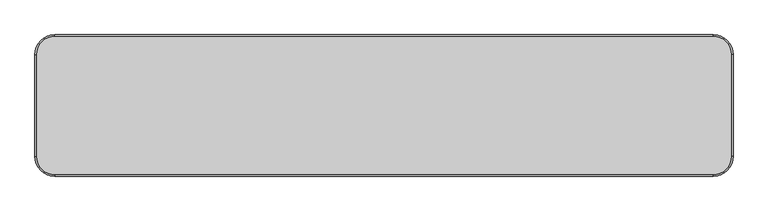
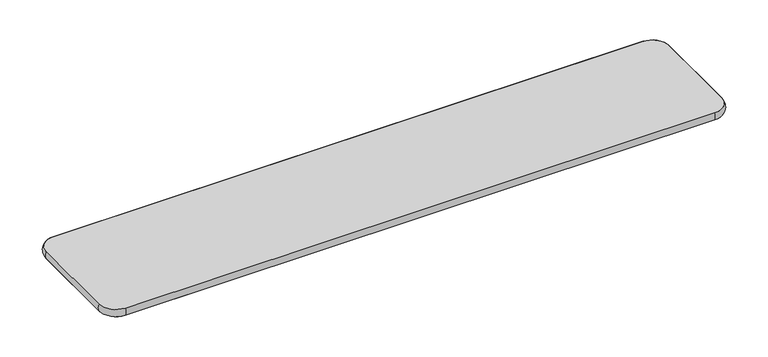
"""IFC4 building model written with IfcOpenShell, lengths in millimetres: furniture geometry, Banco para refeitório : Banco para refeitório 150x30cm cód 40470.6."""

from ifc_helpers import new_model, si_unit, point, frame, frame_2d, origin, place, context, project, spatial, polyline, circle_curve, ellipse_curve, trimmed, segment, composite_curve, outline, extrude, source, transform, mapped, element, save
from ifc_brep_helpers import plane_surface, cylinder_surface, revolved_surface, advanced_brep


def furniture_715b6826(model_context):
    return source(origin(), model_context, "Body", "SolidModel", [
        advanced_brep(
        [(750.0, -110.0, 460.0), (710.0, -150.0, 460.0), (710.0, -150.0, 442.0), (750.0, -110.0, 442.0), (750.0, 110.0, 442.0), (750.0, 110.0, 460.0), (710.0, 150.0, 460.0), (710.0, 150.0, 442.0), (-710.0, 150.0, 442.0), (-710.0, 150.0, 460.0), (-750.0, 110.0, 460.0), (-750.0, 110.0, 442.0), (-750.0, -110.0, 442.0), (-750.0, -110.0, 460.0), (-710.0, -150.0, 460.0), (-710.0, -150.0, 442.0)],
        [
            (0, 1, circle_curve(frame((710.0, -110.0, 460.0), z_axis=(0.0, 0.0, -1.0), x_axis=(0.0, -1.0, 0.0)), 40.0)),
            (1, 2, circle_curve(frame((710.0, -136.6032084, 451.0), z_axis=(1.0, 0.0, 0.0), x_axis=(0.0, 1.0, 0.0)), 16.1392077)),
            (2, 3, circle_curve(frame((710.0, -110.0, 442.0), z_axis=(0.0, 0.0, 1.0), x_axis=(0.0, -1.0, 0.0)), 40.0)),
            (3, 0, circle_curve(frame((736.6032084, -110.0, 451.0), z_axis=(0.0, -1.0, 0.0), x_axis=(-1.0, 0.0, 0.0)), 16.1392077)),
            (2, 1),
            (0, 3),
            (3, 4),
            (4, 5, circle_curve(frame((736.6032084, 110.0, 451.0), z_axis=(0.0, -1.0, 0.0), x_axis=(-1.0, 0.0, 0.0)), 16.1392077)),
            (5, 0),
            (5, 4),
            (6, 5, circle_curve(frame((710.0, 110.0, 460.0), z_axis=(0.0, 0.0, -1.0), x_axis=(1.0, 0.0, 0.0)), 40.0)),
            (4, 7, circle_curve(frame((710.0, 110.0, 442.0), z_axis=(0.0, 0.0, 1.0), x_axis=(1.0, 0.0, 0.0)), 40.0)),
            (7, 6, circle_curve(frame((710.0, 136.6032084, 451.0), z_axis=(1.0, 0.0, 0.0), x_axis=(0.0, -1.0, 0.0)), 16.1392077)),
            (6, 7),
            (7, 8),
            (8, 9, circle_curve(frame((-710.0, 136.6032084, 451.0), z_axis=(1.0, 0.0, 0.0), x_axis=(0.0, -1.0, 0.0)), 16.1392077)),
            (9, 6),
            (9, 8),
            (10, 9, circle_curve(frame((-710.0, 110.0, 460.0), z_axis=(0.0, 0.0, -1.0), x_axis=(0.0, 1.0, 0.0)), 40.0)),
            (8, 11, circle_curve(frame((-710.0, 110.0, 442.0), z_axis=(0.0, 0.0, 1.0), x_axis=(0.0, 1.0, 0.0)), 40.0)),
            (11, 10, circle_curve(frame((-736.6032084, 110.0, 451.0), z_axis=(0.0, 1.0, 0.0), x_axis=(1.0, 0.0, 0.0)), 16.1392077)),
            (10, 11),
            (11, 12),
            (12, 13, circle_curve(frame((-736.6032084, -110.0, 451.0), z_axis=(0.0, 1.0, 0.0), x_axis=(1.0, 0.0, 0.0)), 16.1392077)),
            (13, 10),
            (13, 12),
            (14, 13, circle_curve(frame((-710.0, -110.0, 460.0), z_axis=(0.0, 0.0, -1.0), x_axis=(-1.0, 0.0, 0.0)), 40.0)),
            (12, 15, circle_curve(frame((-710.0, -110.0, 442.0), z_axis=(0.0, 0.0, 1.0), x_axis=(-1.0, 0.0, 0.0)), 40.0)),
            (15, 14, circle_curve(frame((-710.0, -136.6032084, 451.0), z_axis=(-1.0, 0.0, 0.0), x_axis=(0.0, 1.0, 0.0)), 16.1392077)),
            (14, 15),
            (15, 2),
            (1, 14),
        ],
        [
            revolved_surface(trimmed(ellipse_curve(frame((710.0, -136.6032084, 451.0), z_axis=(-1.0, 0.0, 0.0), x_axis=(0.0, 1.0, 0.0)), 16.1392077, 16.1392077), [point((710.0, -150.0, 442.0))], [point((710.0, -150.0, 460.0))], True, "CARTESIAN"), (710.0, -110.0, 460.0), (0.0, 0.0, 1.0)),
            revolved_surface(polyline([(710.0, -150.0, 460.0), (710.0, -150.0, 442.0)]), (710.0, -110.0, 460.0), (0.0, 0.0, 1.0)),
            cylinder_surface(frame((736.6032084, -110.0, 451.0), z_axis=(0.0, -1.0, 0.0), x_axis=(-1.0, 0.0, 0.0)), 16.1392077),
            plane_surface(frame((750.0, -110.0, 460.0), z_axis=(-1.0, 0.0, 0.0), x_axis=(0.0, 1.0, 0.0))),
            revolved_surface(trimmed(ellipse_curve(frame((736.6032084, 110.0, 451.0), z_axis=(0.0, -1.0, 0.0), x_axis=(-1.0, 0.0, 0.0)), 16.1392077, 16.1392077), [point((750.0, 110.0, 442.0))], [point((750.0, 110.0, 460.0))], True, "CARTESIAN"), (710.0, 110.0, 460.0), (0.0, 0.0, 1.0)),
            revolved_surface(polyline([(750.0, 110.0, 460.0), (750.0, 110.0, 442.0)]), (710.0, 110.0, 460.0), (0.0, 0.0, 1.0)),
            cylinder_surface(frame((710.0, 136.6032084, 451.0), z_axis=(1.0, 0.0, 0.0), x_axis=(0.0, -1.0, 0.0)), 16.1392077),
            plane_surface(frame((710.0, 150.0, 460.0), z_axis=(0.0, -1.0, 0.0), x_axis=(-1.0, 0.0, 0.0))),
            revolved_surface(trimmed(ellipse_curve(frame((-710.0, 136.6032084, 451.0), z_axis=(1.0, 0.0, 0.0), x_axis=(0.0, -1.0, 0.0)), 16.1392077, 16.1392077), [point((-710.0, 150.0, 442.0))], [point((-710.0, 150.0, 460.0))], True, "CARTESIAN"), (-710.0, 110.0, 460.0), (0.0, 0.0, 1.0)),
            revolved_surface(polyline([(-710.0, 150.0, 460.0), (-710.0, 150.0, 442.0)]), (-710.0, 110.0, 460.0), (0.0, 0.0, 1.0)),
            cylinder_surface(frame((-736.6032084, 110.0, 451.0), z_axis=(0.0, 1.0, 0.0), x_axis=(1.0, 0.0, 0.0)), 16.1392077),
            plane_surface(frame((-750.0, 110.0, 460.0), z_axis=(1.0, 0.0, 0.0), x_axis=(0.0, -1.0, 0.0))),
            revolved_surface(trimmed(ellipse_curve(frame((-736.6032084, -110.0, 451.0), z_axis=(0.0, 1.0, 0.0), x_axis=(1.0, 0.0, 0.0)), 16.1392077, 16.1392077), [point((-750.0, -110.0, 442.0))], [point((-750.0, -110.0, 460.0))], True, "CARTESIAN"), (-710.0, -110.0, 460.0), (0.0, 0.0, 1.0)),
            revolved_surface(polyline([(-750.0, -110.0, 460.0), (-750.0, -110.0, 442.0)]), (-710.0, -110.0, 460.0), (0.0, 0.0, 1.0)),
            cylinder_surface(frame((-710.0, -136.6032084, 451.0), z_axis=(-1.0, 0.0, 0.0), x_axis=(0.0, 1.0, 0.0)), 16.1392077),
            plane_surface(frame((-710.0, -150.0, 460.0), z_axis=(0.0, 1.0, 0.0), x_axis=(1.0, 0.0, 0.0))),
        ],
        [
            (0, [[1, 2, 3, 4]]),
            (1, [[-3, 5, -1, 6]]),
            (2, [[-4, 7, 8, 9]]),
            (3, [[-6, -9, 10, -7]]),
            (4, [[11, -8, 12, 13]]),
            (5, [[-12, -10, -11, 14]]),
            (6, [[-13, 15, 16, 17]]),
            (7, [[-14, -17, 18, -15]]),
            (8, [[19, -16, 20, 21]]),
            (9, [[-20, -18, -19, 22]]),
            (10, [[-21, 23, 24, 25]]),
            (11, [[-22, -25, 26, -23]]),
            (12, [[27, -24, 28, 29]]),
            (13, [[-28, -26, -27, 30]]),
            (14, [[-29, 31, -2, 32]]),
            (15, [[-30, -32, -5, -31]]),
        ],
    ),
        extrude(outline(composite_curve([segment(trimmed(circle_curve(frame_2d((710.0, 110.0)), 40.0), [point((710.0, 150.0))], [point((750.0, 110.0))], False, "CARTESIAN"), True, "CONTINUOUS"), segment(polyline([(750.0, 110.0), (750.0, -110.0)]), True, "CONTINUOUS"), segment(trimmed(circle_curve(frame_2d((710.0, -110.0)), 40.0), [point((750.0, -110.0))], [point((710.0, -150.0))], False, "CARTESIAN"), True, "CONTINUOUS"), segment(polyline([(710.0, -150.0), (-710.0, -150.0)]), True, "CONTINUOUS"), segment(trimmed(circle_curve(frame_2d((-710.0, -110.0)), 40.0), [point((-710.0, -150.0))], [point((-750.0, -110.0))], False, "CARTESIAN"), True, "CONTINUOUS"), segment(polyline([(-750.0, -110.0), (-750.0, 110.0)]), True, "CONTINUOUS"), segment(trimmed(circle_curve(frame_2d((-710.0, 110.0)), 40.0), [point((-750.0, 110.0))], [point((-710.0, 150.0))], False, "CARTESIAN"), True, "CONTINUOUS"), segment(polyline([(-710.0, 150.0), (710.0, 150.0)]), True, "CONTINUOUS")], self_intersect=False)), frame((0.0, 0.0, 442.0), z_axis=(0.0, 0.0, 1.0), x_axis=(1.0, 0.0, 0.0)), (0.0, 0.0, 1.0), 18.0),
    ])


if __name__ == "__main__":
    model = new_model("IFC4")
    model_context = context("Model", 3, world=origin())
    ifc_project = project(units=[si_unit("LENGTHUNIT", "METRE", prefix="MILLI")], contexts=[model_context])
    site = spatial("IfcSite", under=ifc_project)
    building = spatial("IfcBuilding", under=site)
    placement = place(None, origin())
    furniture_shape = furniture_715b6826(model_context)
    element("IfcFurniture", 1, ObjectType="Banco para refeitório : Banco para refeitório 150x30cm cód 40470.6", at=placement, inside=building, context=model_context, shape_type="MappedRepresentation", body=[
        mapped(furniture_shape, transform((0.0, 0.0, 0.0), x_axis=(1.0, 0.0, 0.0), y_axis=(0.0, 1.0, 0.0), z_axis=(0.0, 0.0, 1.0))),
    ])
    save(model, "model.ifc")
